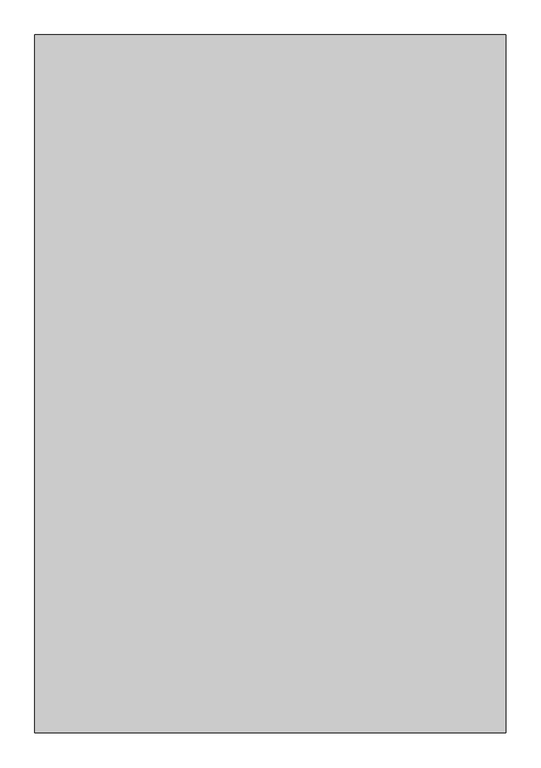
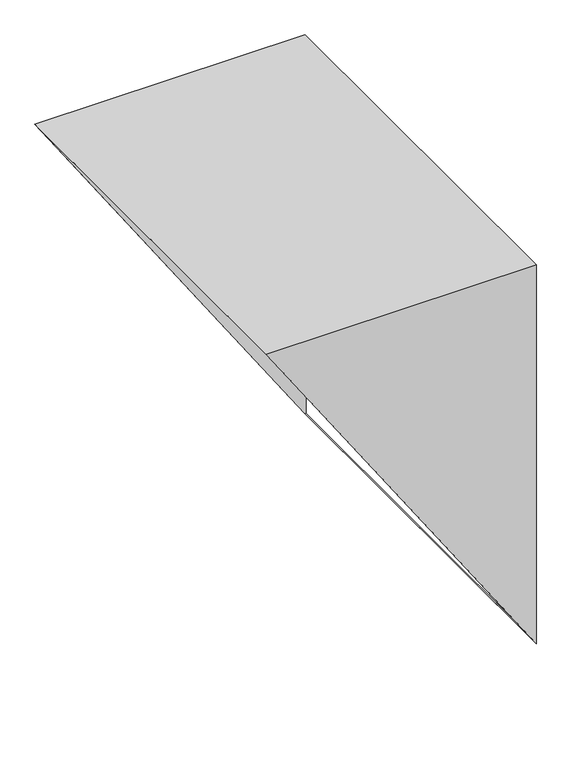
"""IFC4 building model written with IfcOpenShell, lengths in millimetres: duct fitting geometry, MERCOR - Czerpnia do obudowy walcowej : Czerpnia do układu mcr EXi-F 80-1M."""

from ifc_helpers import new_model, si_unit, origin, place, context, project, spatial, faceted_brep, source, transform, mapped, element, save


def duct_fitting_f38d0a11(model_context):
    return source(origin(), model_context, "Body", "Brep", [
        faceted_brep([(0.0, 600.0, -600.0), (0.0, 600.0, 600.0), (0.0, -600.0, 600.0), (0.0, -600.0, -600.0), (0.0, 596.0, -596.0), (0.0, -596.0, -596.0), (0.0, -596.0, 596.0), (0.0, 596.0, 596.0), (-810.0, 600.0, 600.0), (-810.0, -600.0, 600.0), (-2.7, 596.0, -596.0), (-2.7, -596.0, -596.0), (-807.3, 596.0, 596.0), (-807.3, -596.0, 596.0)], [[[0, 1, 2, 3], [4, 5, 6, 7]], [[1, 0, 8]], [[2, 1, 8, 9]], [[3, 2, 9]], [[5, 4, 10, 11]], [[4, 7, 12, 10]], [[7, 6, 13, 12]], [[6, 5, 11, 13]], [[0, 3, 9, 8], [11, 10, 12, 13]]]),
    ])


if __name__ == "__main__":
    model = new_model("IFC4")
    model_context = context("Model", 3, world=origin())
    ifc_project = project(units=[si_unit("LENGTHUNIT", "METRE", prefix="MILLI")], contexts=[model_context])
    site = spatial("IfcSite", under=ifc_project)
    building = spatial("IfcBuilding", under=site)
    placement = place(None, origin())
    duct_fitting_shape = duct_fitting_f38d0a11(model_context)
    element("IfcDuctFitting", 1, ObjectType="MERCOR - Czerpnia do obudowy walcowej : Czerpnia do układu mcr EXi-F 80-1M", at=placement, inside=building, context=model_context, shape_type="MappedRepresentation", body=[
        mapped(duct_fitting_shape, transform((0.0, 0.0, 0.0), x_axis=(1.0, 0.0, 0.0), y_axis=(0.0, 1.0, 0.0), z_axis=(0.0, 0.0, 1.0))),
    ])
    save(model, "model.ifc")
